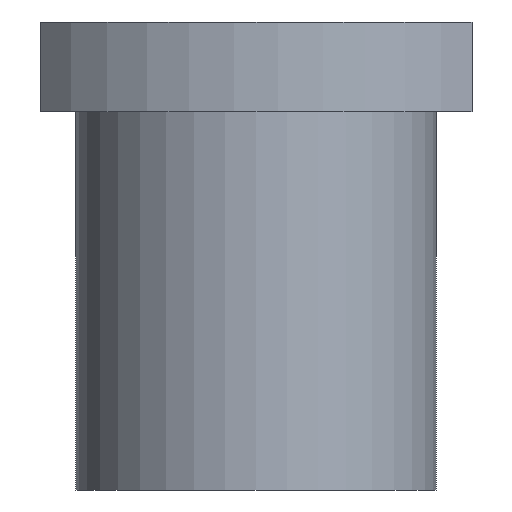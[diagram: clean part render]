
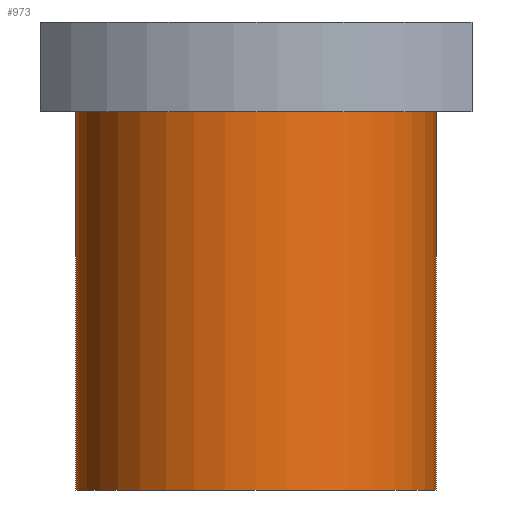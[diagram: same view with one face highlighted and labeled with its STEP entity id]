
A CAD part, front view. The second image highlights one B-rep face of the part: STEP entity #973.
In plain terms, the highlighted cylindrical face has radius 20 mm (diameter 40 mm), a partial arc.
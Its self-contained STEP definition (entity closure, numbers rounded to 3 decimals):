
#16=CARTESIAN_POINT('',(0.,0.,-21.));
#17=DIRECTION('',(0.,0.,1.));
#18=DIRECTION('',(-1.,0.,0.));
#19=AXIS2_PLACEMENT_3D('',#16,#17,#18);
#377=DIRECTION('',(0.,0.,1.));
#378=VECTOR('',#377,42.);
#379=CARTESIAN_POINT('',(20.,0.,-21.));
#380=LINE('',#379,#378);
#381=CARTESIAN_POINT('',(0.,0.,21.));
#382=DIRECTION('',(0.,0.,1.));
#383=DIRECTION('',(-1.,0.,0.));
#384=AXIS2_PLACEMENT_3D('',#381,#382,#383);
#386=DIRECTION('',(0.,0.,1.));
#387=VECTOR('',#386,42.);
#388=CARTESIAN_POINT('',(-20.,0.,-21.));
#389=LINE('',#388,#387);
#394=CARTESIAN_POINT('',(20.,0.,-21.));
#395=CARTESIAN_POINT('',(-20.,0.,-21.));
#396=VERTEX_POINT('',#394);
#397=VERTEX_POINT('',#395);
#466=CARTESIAN_POINT('',(20.,0.,21.));
#467=CARTESIAN_POINT('',(-20.,0.,21.));
#468=VERTEX_POINT('',#466);
#469=VERTEX_POINT('',#467);
#962=CARTESIAN_POINT('',(0.,0.,-21.));
#963=DIRECTION('',(0.,0.,1.));
#964=DIRECTION('',(1.,0.,0.));
#965=AXIS2_PLACEMENT_3D('',#962,#963,#964);
#966=CYLINDRICAL_SURFACE('',#965,20.);
#967=ORIENTED_EDGE('',*,*,#661,.T.);
#968=ORIENTED_EDGE('',*,*,#957,.F.);
#969=ORIENTED_EDGE('',*,*,#493,.F.);
#970=ORIENTED_EDGE('',*,*,#954,.T.);
#971=EDGE_LOOP('',(#967,#968,#969,#970));
#972=FACE_OUTER_BOUND('',#971,.F.);
#20=CIRCLE('',#19,20.);
#385=CIRCLE('',#384,20.);
#493=EDGE_CURVE('',#397,#396,#20,.T.);
#661=EDGE_CURVE('',#469,#468,#385,.T.);
#954=EDGE_CURVE('',#397,#469,#389,.T.);
#957=EDGE_CURVE('',#396,#468,#380,.T.);
#973=ADVANCED_FACE('',(#972),#966,.T.);
